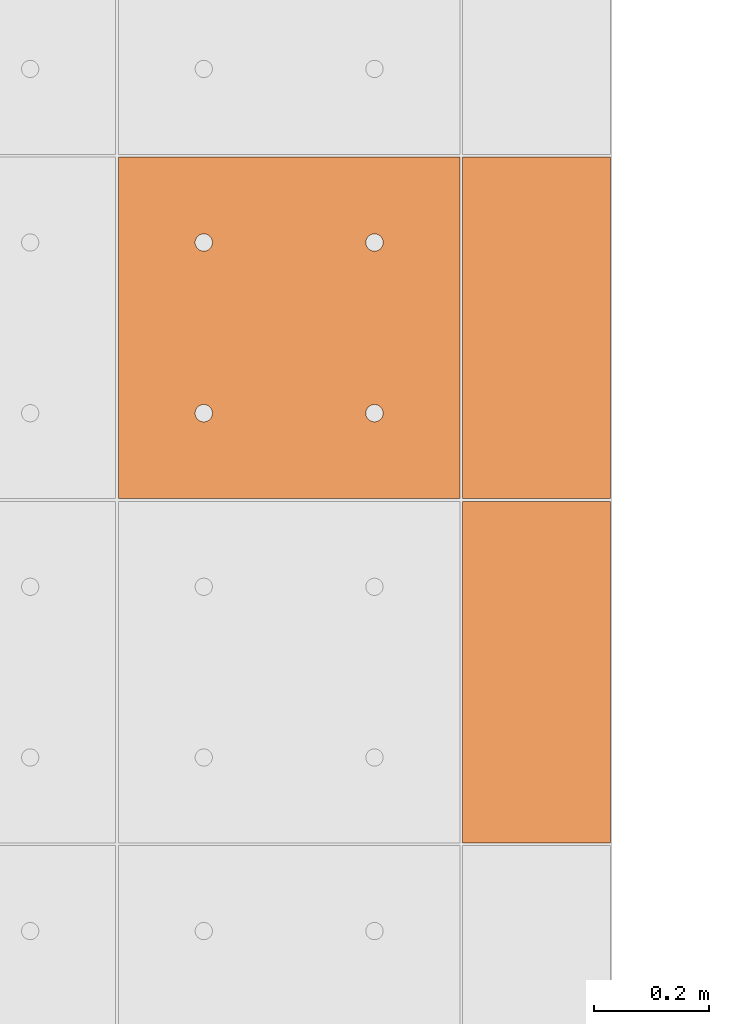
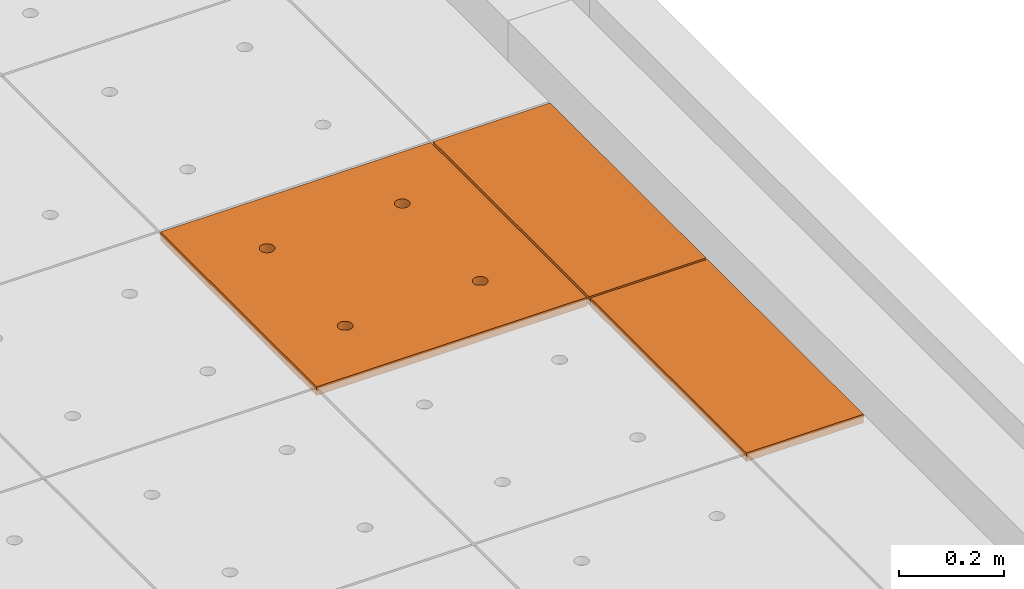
# One storey, part 226 of 338: 3 proxies, 1 element without a shape of its own.
"""IFC2X3 building model written with IfcOpenShell, lengths in millimetres."""

from ifc_helpers import new_model, entity, si_unit, converted_unit, derived_unit, money_unit, direction, frame, origin_with_axes, place, context, subcontext, project, spatial, faceted_brep, source, transform, mapped, material, type_object, type_shapes, element, aggregate, save


model = new_model("IFC2X3")

# Units and contexts
model_context = context("Model", 3, precision=0.01, world=origin_with_axes(), true_north=direction((0.0, 1.0)))
plan_context = context("Plan", 3, precision=0.01, world=origin_with_axes(), true_north=direction((0.0, 1.0)))
body_context = subcontext(model_context, "Body", "Model", "MODEL_VIEW")
ifc_project = project(units=[si_unit("LENGTHUNIT", "METRE", prefix="MILLI"), si_unit("AREAUNIT", "SQUARE_METRE"), si_unit("VOLUMEUNIT", "CUBIC_METRE"), converted_unit("PLANEANGLEUNIT", "DEGREE", entity("IfcPlaneAngleMeasure", 0.0174532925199), si_unit("PLANEANGLEUNIT", "RADIAN"), dimensions=[0, 0, 0, 0, 0, 0, 0]), money_unit("EUR"), converted_unit("TIMEUNIT", "Year", entity("IfcTimeMeasure", 31556926.0), si_unit("TIMEUNIT", "SECOND"), dimensions=[0, 0, 1, 0, 0, 0, 0]), si_unit("MASSUNIT", "GRAM", prefix="KILO"), si_unit("THERMODYNAMICTEMPERATUREUNIT", "DEGREE_CELSIUS"), si_unit("LUMINOUSINTENSITYUNIT", "LUMEN"), si_unit("ENERGYUNIT", "JOULE", prefix="MEGA"), derived_unit("THERMALCONDUCTANCEUNIT", [(si_unit("POWERUNIT", "WATT"), 1), (si_unit("LENGTHUNIT", "METRE"), -1), (si_unit("THERMODYNAMICTEMPERATUREUNIT", "KELVIN"), -1)]), derived_unit("SPECIFICHEATCAPACITYUNIT", [(si_unit("ENERGYUNIT", "JOULE"), 1), (si_unit("MASSUNIT", "GRAM", prefix="KILO"), -1), (si_unit("THERMODYNAMICTEMPERATUREUNIT", "KELVIN"), -1)]), derived_unit("MASSDENSITYUNIT", [(si_unit("MASSUNIT", "GRAM", prefix="KILO"), 1), (si_unit("VOLUMEUNIT", "CUBIC_METRE"), -1)])], contexts=[model_context, plan_context])

# Site, building, storey
site_placement = place(None, origin_with_axes())
site = spatial("IfcSite", under=ifc_project, at=site_placement, Name="Fortuinstraat Woensdrecht", CompositionType="ELEMENT")
building_placement = place(site_placement, origin_with_axes())
building = spatial("IfcBuilding", under=site, at=building_placement, Name="IKC Fortuna", CompositionType="ELEMENT")
storey_placement = place(building_placement, origin_with_axes())
storey = spatial("IfcBuildingStorey", under=building, at=storey_placement, Name="00 begane grond", CompositionType="ELEMENT", Elevation=0.0)

# Covering, proxies
covering_type = type_object("IfcCoveringType", Name="Curtain Wall Type", PredefinedType="CEILING")
covering_placement = place(storey_placement, frame((31656.9226967, 15748.5304598, 3210.0), z_axis=(0.0, 0.0, 1.0), x_axis=(1.0, 0.0, 0.0)))
covering = element("IfcCovering", 1, at=covering_placement, inside=storey, type_object=covering_type, Name="45_Plafondafwerking_P01", PredefinedType="CEILING")
ifc_material = material(Name="Gipsplaat")
building_element_proxy_type_1 = type_object("IfcBuildingElementProxyType", Name="Main Panel 600 x 600 x 20", PredefinedType="NOTDEFINED")
shared_shape_1 = source(origin_with_axes(), body_context, "Body", "Brep", [
    faceted_brep([(2.49999999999, 2.49999999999, -10.0), (300.0, 2.49999999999, -10.0), (300.0, 2.49999999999, 10.0), (2.49999999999, 2.49999999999, 10.0), (2.49999999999, 300.0, -10.0), (2.49999999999, 597.5, -10.0), (300.0, 597.5, -10.0), (597.5, 597.5, -10.0), (597.5, 300.0, -10.0), (597.5, 2.49999999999, -10.0), (166.25, 450.06232995, -10.0), (165.79423259, 452.64711538, -10.0), (164.896546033, 455.11348892, -10.0), (163.58421608, 457.38651108, -10.0), (161.897117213, 459.39711721, -10.0), (159.886511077, 461.08421608, -10.0), (157.613488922, 462.39654603, -10.0), (155.147115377, 463.29423259, -10.0), (152.562329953, 463.75, -10.0), (149.937670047, 463.75, -10.0), (147.352884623, 463.29423259, -10.0), (144.886511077, 462.39654603, -10.0), (142.613488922, 461.08421608, -10.0), (140.602882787, 459.39711721, -10.0), (138.91578392, 457.38651108, -10.0), (137.603453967, 455.11348892, -10.0), (136.705767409, 452.64711538, -10.0), (136.25, 450.06232995, -10.0), (136.25, 448.75, -10.0), (136.25, 447.43767005, -10.0), (136.705767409, 444.85288462, -10.0), (137.603453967, 442.38651108, -10.0), (138.91578392, 440.11348892, -10.0), (140.602882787, 438.10288279, -10.0), (142.613488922, 436.41578392, -10.0), (144.886511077, 435.10345397, -10.0), (147.352884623, 434.20576741, -10.0), (149.937670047, 433.75, -10.0), (152.562329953, 433.75, -10.0), (155.147115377, 434.20576741, -10.0), (157.613488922, 435.10345397, -10.0), (159.886511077, 436.41578392, -10.0), (161.897117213, 438.10288279, -10.0), (163.58421608, 440.11348892, -10.0), (164.896546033, 442.38651108, -10.0), (165.79423259, 444.85288462, -10.0), (166.25, 447.43767005, -10.0), (463.75, 450.06232995, -10.0), (463.29423259, 452.64711538, -10.0), (462.396546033, 455.11348892, -10.0), (461.08421608, 457.38651108, -10.0), (459.397117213, 459.39711721, -10.0), (457.386511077, 461.08421608, -10.0), (455.113488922, 462.39654603, -10.0), (452.647115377, 463.29423259, -10.0), (450.062329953, 463.75, -10.0), (447.437670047, 463.75, -10.0), (444.852884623, 463.29423259, -10.0), (442.386511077, 462.39654603, -10.0), (440.113488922, 461.08421608, -10.0), (438.102882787, 459.39711721, -10.0), (436.41578392, 457.38651108, -10.0), (435.103453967, 455.11348892, -10.0), (434.205767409, 452.64711538, -10.0), (433.75, 450.06232995, -10.0), (433.75, 448.75, -10.0), (433.75, 447.43767005, -10.0), (434.205767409, 444.85288462, -10.0), (435.103453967, 442.38651108, -10.0), (436.41578392, 440.11348892, -10.0), (438.102882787, 438.10288279, -10.0), (440.113488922, 436.41578392, -10.0), (442.386511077, 435.10345397, -10.0), (444.852884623, 434.20576741, -10.0), (447.437670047, 433.75, -10.0), (450.062329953, 433.75, -10.0), (452.647115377, 434.20576741, -10.0), (455.113488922, 435.10345397, -10.0), (457.386511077, 436.41578392, -10.0), (459.397117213, 438.10288279, -10.0), (461.08421608, 440.11348892, -10.0), (462.396546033, 442.38651108, -10.0), (463.29423259, 444.85288462, -10.0), (463.75, 447.43767005, -10.0), (463.75, 152.56232995, -10.0), (463.29423259, 155.14711538, -10.0), (462.396546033, 157.61348892, -10.0), (461.08421608, 159.88651108, -10.0), (459.397117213, 161.89711721, -10.0), (457.386511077, 163.58421608, -10.0), (455.113488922, 164.89654603, -10.0), (452.647115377, 165.79423259, -10.0), (450.062329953, 166.25, -10.0), (447.437670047, 166.25, -10.0), (444.852884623, 165.79423259, -10.0), (442.386511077, 164.89654603, -10.0), (440.113488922, 163.58421608, -10.0), (438.102882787, 161.89711721, -10.0), (436.41578392, 159.88651108, -10.0), (435.103453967, 157.61348892, -10.0), (434.205767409, 155.14711538, -10.0), (433.75, 152.56232995, -10.0), (433.75, 151.25, -10.0), (433.75, 149.93767005, -10.0), (434.205767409, 147.35288462, -10.0), (435.103453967, 144.88651108, -10.0), (436.41578392, 142.61348892, -10.0), (438.102882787, 140.60288279, -10.0), (440.113488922, 138.91578392, -10.0), (442.386511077, 137.60345397, -10.0), (444.852884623, 136.70576741, -10.0), (447.437670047, 136.25, -10.0), (450.062329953, 136.25, -10.0), (452.647115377, 136.70576741, -10.0), (455.113488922, 137.60345397, -10.0), (457.386511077, 138.91578392, -10.0), (459.397117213, 140.60288279, -10.0), (461.08421608, 142.61348892, -10.0), (462.396546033, 144.88651108, -10.0), (463.29423259, 147.35288462, -10.0), (463.75, 149.93767005, -10.0), (166.25, 152.56232995, -10.0), (165.79423259, 155.14711538, -10.0), (164.896546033, 157.61348892, -10.0), (163.58421608, 159.88651108, -10.0), (161.897117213, 161.89711721, -10.0), (159.886511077, 163.58421608, -10.0), (157.613488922, 164.89654603, -10.0), (155.147115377, 165.79423259, -10.0), (152.562329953, 166.25, -10.0), (149.937670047, 166.25, -10.0), (147.352884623, 165.79423259, -10.0), (144.886511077, 164.89654603, -10.0), (142.613488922, 163.58421608, -10.0), (140.602882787, 161.89711721, -10.0), (138.91578392, 159.88651108, -10.0), (137.603453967, 157.61348892, -10.0), (136.705767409, 155.14711538, -10.0), (136.25, 152.56232995, -10.0), (136.25, 151.25, -10.0), (136.25, 149.93767005, -10.0), (136.705767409, 147.35288462, -10.0), (137.603453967, 144.88651108, -10.0), (138.91578392, 142.61348892, -10.0), (140.602882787, 140.60288279, -10.0), (142.613488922, 138.91578392, -10.0), (144.886511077, 137.60345397, -10.0), (147.352884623, 136.70576741, -10.0), (149.937670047, 136.25, -10.0), (152.562329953, 136.25, -10.0), (155.147115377, 136.70576741, -10.0), (157.613488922, 137.60345397, -10.0), (159.886511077, 138.91578392, -10.0), (161.897117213, 140.60288279, -10.0), (163.58421608, 142.61348892, -10.0), (164.896546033, 144.88651108, -10.0), (165.79423259, 147.35288462, -10.0), (166.25, 149.93767005, -10.0), (597.5, 2.49999999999, 10.0), (597.5, 300.0, 10.0), (597.5, 597.5, 10.0), (300.0, 597.5, 10.0), (2.49999999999, 597.5, 10.0), (2.49999999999, 300.0, 10.0), (166.25, 450.06232995, 10.0), (166.25, 447.43767005, 10.0), (165.79423259, 444.85288462, 10.0), (164.896546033, 442.38651108, 10.0), (163.58421608, 440.11348892, 10.0), (161.897117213, 438.10288279, 10.0), (159.886511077, 436.41578392, 10.0), (157.613488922, 435.10345397, 10.0), (155.147115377, 434.20576741, 10.0), (152.562329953, 433.75, 10.0), (149.937670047, 433.75, 10.0), (147.352884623, 434.20576741, 10.0), (144.886511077, 435.10345397, 10.0), (142.613488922, 436.41578392, 10.0), (140.602882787, 438.10288279, 10.0), (138.91578392, 440.11348892, 10.0), (137.603453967, 442.38651108, 10.0), (136.705767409, 444.85288462, 10.0), (136.25, 447.43767005, 10.0), (136.25, 448.75, 10.0), (136.25, 450.06232995, 10.0), (136.705767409, 452.64711538, 10.0), (137.603453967, 455.11348892, 10.0), (138.91578392, 457.38651108, 10.0), (140.602882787, 459.39711721, 10.0), (142.613488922, 461.08421608, 10.0), (144.886511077, 462.39654603, 10.0), (147.352884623, 463.29423259, 10.0), (149.937670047, 463.75, 10.0), (152.562329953, 463.75, 10.0), (155.147115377, 463.29423259, 10.0), (157.613488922, 462.39654603, 10.0), (159.886511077, 461.08421608, 10.0), (161.897117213, 459.39711721, 10.0), (163.58421608, 457.38651108, 10.0), (164.896546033, 455.11348892, 10.0), (165.79423259, 452.64711538, 10.0), (463.75, 450.06232995, 10.0), (463.75, 447.43767005, 10.0), (463.29423259, 444.85288462, 10.0), (462.396546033, 442.38651108, 10.0), (461.08421608, 440.11348892, 10.0), (459.397117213, 438.10288279, 10.0), (457.386511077, 436.41578392, 10.0), (455.113488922, 435.10345397, 10.0), (452.647115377, 434.20576741, 10.0), (450.062329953, 433.75, 10.0), (447.437670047, 433.75, 10.0), (444.852884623, 434.20576741, 10.0), (442.386511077, 435.10345397, 10.0), (440.113488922, 436.41578392, 10.0), (438.102882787, 438.10288279, 10.0), (436.41578392, 440.11348892, 10.0), (435.103453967, 442.38651108, 10.0), (434.205767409, 444.85288462, 10.0), (433.75, 447.43767005, 10.0), (433.75, 448.75, 10.0), (433.75, 450.06232995, 10.0), (434.205767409, 452.64711538, 10.0), (435.103453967, 455.11348892, 10.0), (436.41578392, 457.38651108, 10.0), (438.102882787, 459.39711721, 10.0), (440.113488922, 461.08421608, 10.0), (442.386511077, 462.39654603, 10.0), (444.852884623, 463.29423259, 10.0), (447.437670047, 463.75, 10.0), (450.062329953, 463.75, 10.0), (452.647115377, 463.29423259, 10.0), (455.113488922, 462.39654603, 10.0), (457.386511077, 461.08421608, 10.0), (459.397117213, 459.39711721, 10.0), (461.08421608, 457.38651108, 10.0), (462.396546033, 455.11348892, 10.0), (463.29423259, 452.64711538, 10.0), (463.75, 152.56232995, 10.0), (463.75, 149.93767005, 10.0), (463.29423259, 147.35288462, 10.0), (462.396546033, 144.88651108, 10.0), (461.08421608, 142.61348892, 10.0), (459.397117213, 140.60288279, 10.0), (457.386511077, 138.91578392, 10.0), (455.113488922, 137.60345397, 10.0), (452.647115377, 136.70576741, 10.0), (450.062329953, 136.25, 10.0), (447.437670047, 136.25, 10.0), (444.852884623, 136.70576741, 10.0), (442.386511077, 137.60345397, 10.0), (440.113488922, 138.91578392, 10.0), (438.102882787, 140.60288279, 10.0), (436.41578392, 142.61348892, 10.0), (435.103453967, 144.88651108, 10.0), (434.205767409, 147.35288462, 10.0), (433.75, 149.93767005, 10.0), (433.75, 151.25, 10.0), (433.75, 152.56232995, 10.0), (434.205767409, 155.14711538, 10.0), (435.103453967, 157.61348892, 10.0), (436.41578392, 159.88651108, 10.0), (438.102882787, 161.89711721, 10.0), (440.113488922, 163.58421608, 10.0), (442.386511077, 164.89654603, 10.0), (444.852884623, 165.79423259, 10.0), (447.437670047, 166.25, 10.0), (450.062329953, 166.25, 10.0), (452.647115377, 165.79423259, 10.0), (455.113488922, 164.89654603, 10.0), (457.386511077, 163.58421608, 10.0), (459.397117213, 161.89711721, 10.0), (461.08421608, 159.88651108, 10.0), (462.396546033, 157.61348892, 10.0), (463.29423259, 155.14711538, 10.0), (166.25, 152.56232995, 10.0), (166.25, 149.93767005, 10.0), (165.79423259, 147.35288462, 10.0), (164.896546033, 144.88651108, 10.0), (163.58421608, 142.61348892, 10.0), (161.897117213, 140.60288279, 10.0), (159.886511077, 138.91578392, 10.0), (157.613488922, 137.60345397, 10.0), (155.147115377, 136.70576741, 10.0), (152.562329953, 136.25, 10.0), (149.937670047, 136.25, 10.0), (147.352884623, 136.70576741, 10.0), (144.886511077, 137.60345397, 10.0), (142.613488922, 138.91578392, 10.0), (140.602882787, 140.60288279, 10.0), (138.91578392, 142.61348892, 10.0), (137.603453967, 144.88651108, 10.0), (136.705767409, 147.35288462, 10.0), (136.25, 149.93767005, 10.0), (136.25, 151.25, 10.0), (136.25, 152.56232995, 10.0), (136.705767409, 155.14711538, 10.0), (137.603453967, 157.61348892, 10.0), (138.91578392, 159.88651108, 10.0), (140.602882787, 161.89711721, 10.0), (142.613488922, 163.58421608, 10.0), (144.886511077, 164.89654603, 10.0), (147.352884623, 165.79423259, 10.0), (149.937670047, 166.25, 10.0), (152.562329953, 166.25, 10.0), (155.147115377, 165.79423259, 10.0), (157.613488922, 164.89654603, 10.0), (159.886511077, 163.58421608, 10.0), (161.897117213, 161.89711721, 10.0), (163.58421608, 159.88651108, 10.0), (164.896546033, 157.61348892, 10.0), (165.79423259, 155.14711538, 10.0)], [[[0, 1, 2, 3]], [[0, 4, 5, 6, 7, 8, 9, 1], [10, 11, 12, 13, 14, 15, 16, 17, 18, 19, 20, 21, 22, 23, 24, 25, 26, 27, 28, 29, 30, 31, 32, 33, 34, 35, 36, 37, 38, 39, 40, 41, 42, 43, 44, 45, 46], [47, 48, 49, 50, 51, 52, 53, 54, 55, 56, 57, 58, 59, 60, 61, 62, 63, 64, 65, 66, 67, 68, 69, 70, 71, 72, 73, 74, 75, 76, 77, 78, 79, 80, 81, 82, 83], [84, 85, 86, 87, 88, 89, 90, 91, 92, 93, 94, 95, 96, 97, 98, 99, 100, 101, 102, 103, 104, 105, 106, 107, 108, 109, 110, 111, 112, 113, 114, 115, 116, 117, 118, 119, 120], [121, 122, 123, 124, 125, 126, 127, 128, 129, 130, 131, 132, 133, 134, 135, 136, 137, 138, 139, 140, 141, 142, 143, 144, 145, 146, 147, 148, 149, 150, 151, 152, 153, 154, 155, 156, 157]], [[1, 9, 158, 2]], [[3, 2, 158, 159, 160, 161, 162, 163], [164, 165, 166, 167, 168, 169, 170, 171, 172, 173, 174, 175, 176, 177, 178, 179, 180, 181, 182, 183, 184, 185, 186, 187, 188, 189, 190, 191, 192, 193, 194, 195, 196, 197, 198, 199, 200], [201, 202, 203, 204, 205, 206, 207, 208, 209, 210, 211, 212, 213, 214, 215, 216, 217, 218, 219, 220, 221, 222, 223, 224, 225, 226, 227, 228, 229, 230, 231, 232, 233, 234, 235, 236, 237], [238, 239, 240, 241, 242, 243, 244, 245, 246, 247, 248, 249, 250, 251, 252, 253, 254, 255, 256, 257, 258, 259, 260, 261, 262, 263, 264, 265, 266, 267, 268, 269, 270, 271, 272, 273, 274], [275, 276, 277, 278, 279, 280, 281, 282, 283, 284, 285, 286, 287, 288, 289, 290, 291, 292, 293, 294, 295, 296, 297, 298, 299, 300, 301, 302, 303, 304, 305, 306, 307, 308, 309, 310, 311]], [[4, 0, 3, 163]], [[5, 4, 163, 162]], [[6, 5, 162, 161]], [[7, 6, 161, 160]], [[8, 7, 160, 159]], [[9, 8, 159, 158]], [[11, 10, 164, 200]], [[12, 11, 200, 199]], [[13, 12, 199, 198]], [[14, 13, 198, 197]], [[15, 14, 197, 196]], [[16, 15, 196, 195]], [[17, 16, 195, 194]], [[18, 17, 194, 193]], [[19, 18, 193, 192]], [[20, 19, 192, 191]], [[21, 20, 191, 190]], [[22, 21, 190, 189]], [[23, 22, 189, 188]], [[24, 23, 188, 187]], [[25, 24, 187, 186]], [[26, 25, 186, 185]], [[27, 26, 185, 184]], [[28, 27, 184, 183]], [[29, 28, 183, 182]], [[30, 29, 182, 181]], [[31, 30, 181, 180]], [[32, 31, 180, 179]], [[33, 32, 179, 178]], [[34, 33, 178, 177]], [[35, 34, 177, 176]], [[36, 35, 176, 175]], [[37, 36, 175, 174]], [[38, 37, 174, 173]], [[39, 38, 173, 172]], [[40, 39, 172, 171]], [[41, 40, 171, 170]], [[42, 41, 170, 169]], [[43, 42, 169, 168]], [[44, 43, 168, 167]], [[45, 44, 167, 166]], [[46, 45, 166, 165]], [[10, 46, 165, 164]], [[48, 47, 201, 237]], [[49, 48, 237, 236]], [[50, 49, 236, 235]], [[51, 50, 235, 234]], [[52, 51, 234, 233]], [[53, 52, 233, 232]], [[54, 53, 232, 231]], [[55, 54, 231, 230]], [[56, 55, 230, 229]], [[57, 56, 229, 228]], [[58, 57, 228, 227]], [[59, 58, 227, 226]], [[60, 59, 226, 225]], [[61, 60, 225, 224]], [[62, 61, 224, 223]], [[63, 62, 223, 222]], [[64, 63, 222, 221]], [[65, 64, 221, 220]], [[66, 65, 220, 219]], [[67, 66, 219, 218]], [[68, 67, 218, 217]], [[69, 68, 217, 216]], [[70, 69, 216, 215]], [[71, 70, 215, 214]], [[72, 71, 214, 213]], [[73, 72, 213, 212]], [[74, 73, 212, 211]], [[75, 74, 211, 210]], [[76, 75, 210, 209]], [[77, 76, 209, 208]], [[78, 77, 208, 207]], [[79, 78, 207, 206]], [[80, 79, 206, 205]], [[81, 80, 205, 204]], [[82, 81, 204, 203]], [[83, 82, 203, 202]], [[47, 83, 202, 201]], [[85, 84, 238, 274]], [[86, 85, 274, 273]], [[87, 86, 273, 272]], [[88, 87, 272, 271]], [[89, 88, 271, 270]], [[90, 89, 270, 269]], [[91, 90, 269, 268]], [[92, 91, 268, 267]], [[93, 92, 267, 266]], [[94, 93, 266, 265]], [[95, 94, 265, 264]], [[96, 95, 264, 263]], [[97, 96, 263, 262]], [[98, 97, 262, 261]], [[99, 98, 261, 260]], [[100, 99, 260, 259]], [[101, 100, 259, 258]], [[102, 101, 258, 257]], [[103, 102, 257, 256]], [[104, 103, 256, 255]], [[105, 104, 255, 254]], [[106, 105, 254, 253]], [[107, 106, 253, 252]], [[108, 107, 252, 251]], [[109, 108, 251, 250]], [[110, 109, 250, 249]], [[111, 110, 249, 248]], [[112, 111, 248, 247]], [[113, 112, 247, 246]], [[114, 113, 246, 245]], [[115, 114, 245, 244]], [[116, 115, 244, 243]], [[117, 116, 243, 242]], [[118, 117, 242, 241]], [[119, 118, 241, 240]], [[120, 119, 240, 239]], [[84, 120, 239, 238]], [[122, 121, 275, 311]], [[123, 122, 311, 310]], [[124, 123, 310, 309]], [[125, 124, 309, 308]], [[126, 125, 308, 307]], [[127, 126, 307, 306]], [[128, 127, 306, 305]], [[129, 128, 305, 304]], [[130, 129, 304, 303]], [[131, 130, 303, 302]], [[132, 131, 302, 301]], [[133, 132, 301, 300]], [[134, 133, 300, 299]], [[135, 134, 299, 298]], [[136, 135, 298, 297]], [[137, 136, 297, 296]], [[138, 137, 296, 295]], [[139, 138, 295, 294]], [[140, 139, 294, 293]], [[141, 140, 293, 292]], [[142, 141, 292, 291]], [[143, 142, 291, 290]], [[144, 143, 290, 289]], [[145, 144, 289, 288]], [[146, 145, 288, 287]], [[147, 146, 287, 286]], [[148, 147, 286, 285]], [[149, 148, 285, 284]], [[150, 149, 284, 283]], [[151, 150, 283, 282]], [[152, 151, 282, 281]], [[153, 152, 281, 280]], [[154, 153, 280, 279]], [[155, 154, 279, 278]], [[156, 155, 278, 277]], [[157, 156, 277, 276]], [[121, 157, 276, 275]]]),
])
type_shapes(building_element_proxy_type_1, [shared_shape_1])
proxy_1_placement = place(covering_placement, frame((2400.0, -2400.0, 0.0), z_axis=(0.0, 0.0, 1.0), x_axis=(1.0, 0.0, 0.0)))
proxy_1 = element("IfcBuildingElementProxy", 2, at=proxy_1_placement, type_object=building_element_proxy_type_1, material=ifc_material, Name="__600x715 Rockfon Krios", context=body_context, shape_type="MappedRepresentation", body=[
    mapped(shared_shape_1, transform((300.0, 300.0, 0.0), x_axis=(-1.0, 0.0, 0.0), y_axis=(0.0, -1.0, 0.0), z_axis=(0.0, 0.0, 1.0))),
])
building_element_proxy_type_2 = type_object("IfcBuildingElementProxyType", Name="263 x 600 x 20", PredefinedType="NOTDEFINED")
shared_shape_2 = source(origin_with_axes(), body_context, "Body", "Brep", [
    faceted_brep([(339.99569058, 2.5, -10.0), (597.5, 2.49999999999, -10.0), (597.5, 2.49999999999, 10.0), (339.99569058, 2.5, 10.0), (339.99569058, 597.5, -10.0), (597.5, 597.5, -10.0), (597.5, 597.5, 10.0), (339.99569058, 597.5, 10.0)], [[[0, 1, 2, 3]], [[0, 4, 5, 1]], [[1, 5, 6, 2]], [[3, 2, 6, 7]], [[4, 0, 3, 7]], [[5, 4, 7, 6]]]),
])
type_shapes(building_element_proxy_type_2, [shared_shape_2])
proxy_2_placement = place(covering_placement, frame((2831.25215667, -3000.0, 0.0), z_axis=(0.0, 0.0, 1.0), x_axis=(1.0, 0.0, 0.0)))
proxy_2 = element("IfcBuildingElementProxy", 3, at=proxy_2_placement, type_object=building_element_proxy_type_2, material=ifc_material, Name="__600x768 Rockfon Krios", context=body_context, shape_type="MappedRepresentation", body=[
    mapped(shared_shape_2, transform((468.747843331, 300.0, 0.0), x_axis=(-1.0, 0.0, 0.0), y_axis=(0.0, -1.0, 0.0), z_axis=(0.0, 0.0, 1.0))),
])
proxy_3_placement = place(covering_placement, frame((2831.25215667, -2400.0, 0.0), z_axis=(0.0, 0.0, 1.0), x_axis=(1.0, 0.0, 0.0)))
proxy_3 = element("IfcBuildingElementProxy", 4, at=proxy_3_placement, type_object=building_element_proxy_type_2, material=ifc_material, Name="__600x690 Rockfon Krios", context=body_context, shape_type="MappedRepresentation", body=[
    mapped(shared_shape_2, transform((468.747843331, 300.0, 0.0), x_axis=(-1.0, 0.0, 0.0), y_axis=(0.0, -1.0, 0.0), z_axis=(0.0, 0.0, 1.0))),
])
aggregate(covering, [proxy_1, proxy_2, proxy_3])

save(model, "model.ifc")
